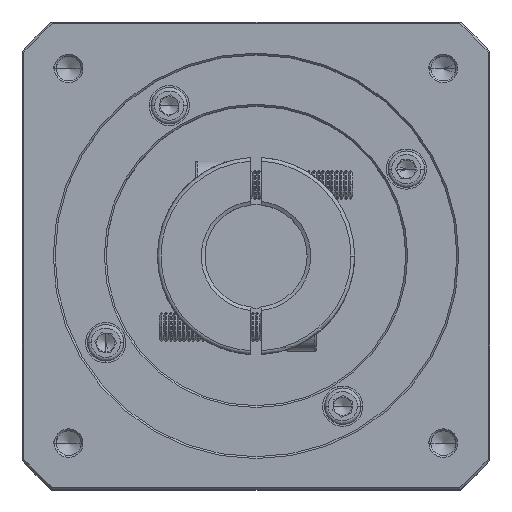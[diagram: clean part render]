
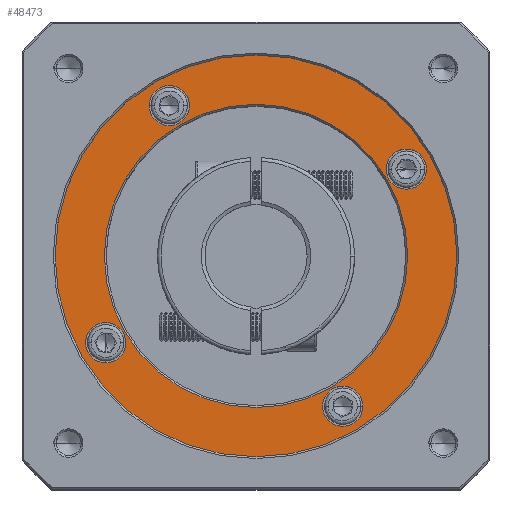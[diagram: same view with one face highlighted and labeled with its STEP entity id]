
A CAD part, top view. The second image highlights one B-rep face of the part: STEP entity #48473.
In plain terms, the highlighted planar face has unit normal (0, 0, 1).
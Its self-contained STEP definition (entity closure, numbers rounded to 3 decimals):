
#279 = VERTEX_POINT ( 'NONE', #19286 ) ;
#600 = DIRECTION ( 'NONE',  ( 1., 0., 0. ) ) ;
#2205 = AXIS2_PLACEMENT_3D ( 'NONE', #31571, #97135, #41064 ) ;
#2297 = CARTESIAN_POINT ( 'NONE',  ( 97.118, 159.927, 47.529 ) ) ;
#2362 = CARTESIAN_POINT ( 'NONE',  ( 110.981, 136.177, 47.529 ) ) ;
#3287 = AXIS2_PLACEMENT_3D ( 'NONE', #42841, #108385, #52226 ) ;
#3496 = CIRCLE ( 'NONE', #69647, 5.5 ) ;
#3546 = EDGE_CURVE ( 'NONE', #33462, #45463, #104579, .T. ) ;
#4136 = DIRECTION ( 'NONE',  ( 1., 0., 0. ) ) ;
#4673 = EDGE_CURVE ( 'NONE', #97977, #72747, #35115, .T. ) ;
#5120 = EDGE_CURVE ( 'NONE', #39438, #117159, #49573, .T. ) ;
#5339 = EDGE_CURVE ( 'NONE', #117159, #39438, #68526, .T. ) ;
#5828 = EDGE_LOOP ( 'NONE', ( #85877, #84084 ) ) ;
#6084 = DIRECTION ( 'NONE',  ( 0., 0., -1. ) ) ;
#8424 = CARTESIAN_POINT ( 'NONE',  ( 74.231, 95.041, 47.529 ) ) ;
#8545 = DIRECTION ( 'NONE',  ( 0., 0., -1. ) ) ;
#10718 = CIRCLE ( 'NONE', #20926, 5.5 ) ;
#11709 = DIRECTION ( 'NONE',  ( 1., 0., 0. ) ) ;
#11887 = DIRECTION ( 'NONE',  ( 0., 0., 1. ) ) ;
#13020 = AXIS2_PLACEMENT_3D ( 'NONE', #94136, #38062, #103551 ) ;
#14042 = CARTESIAN_POINT ( 'NONE',  ( 97.481, 136.177, 47.529 ) ) ;
#18228 = FACE_BOUND ( 'NONE', #104554, .T. ) ;
#19115 = ORIENTED_EDGE ( 'NONE', *, *, #92613, .T. ) ;
#19286 = CARTESIAN_POINT ( 'NONE',  ( 0.981, 136.177, 47.529 ) ) ;
#20926 = AXIS2_PLACEMENT_3D ( 'NONE', #112971, #56839, #600 ) ;
#20986 = PLANE ( 'NONE',  #41298 ) ;
#21353 = CARTESIAN_POINT ( 'NONE',  ( 102.618, 159.927, 47.529 ) ) ;
#21807 = VERTEX_POINT ( 'NONE', #99287 ) ;
#22528 = CARTESIAN_POINT ( 'NONE',  ( 32.231, 177.313, 47.529 ) ) ;
#29146 = DIRECTION ( 'NONE',  ( 0., 0., -1. ) ) ;
#31571 = CARTESIAN_POINT ( 'NONE',  ( 14.845, 112.427, 47.529 ) ) ;
#31958 = DIRECTION ( 'NONE',  ( 1., 0., 0. ) ) ;
#32155 = VERTEX_POINT ( 'NONE', #33177 ) ;
#33177 = CARTESIAN_POINT ( 'NONE',  ( 14.481, 136.177, 47.529 ) ) ;
#33462 = VERTEX_POINT ( 'NONE', #102956 ) ;
#35115 = CIRCLE ( 'NONE', #49623, 5.5 ) ;
#35983 = EDGE_LOOP ( 'NONE', ( #70958, #67722 ) ) ;
#37298 = ORIENTED_EDGE ( 'NONE', *, *, #5120, .T. ) ;
#38062 = DIRECTION ( 'NONE',  ( 0., 0., -1. ) ) ;
#38109 = CARTESIAN_POINT ( 'NONE',  ( 79.731, 95.041, 47.529 ) ) ;
#38989 = EDGE_CURVE ( 'NONE', #109729, #279, #92565, .T. ) ;
#39438 = VERTEX_POINT ( 'NONE', #8424 ) ;
#40306 = AXIS2_PLACEMENT_3D ( 'NONE', #38109, #103597, #47530 ) ;
#41064 = DIRECTION ( 'NONE',  ( 1., 0., 0. ) ) ;
#41298 = AXIS2_PLACEMENT_3D ( 'NONE', #68160, #11887, #77542 ) ;
#42841 = CARTESIAN_POINT ( 'NONE',  ( 55.981, 136.177, 47.529 ) ) ;
#43194 = FACE_BOUND ( 'NONE', #35983, .T. ) ;
#45463 = VERTEX_POINT ( 'NONE', #59956 ) ;
#47530 = DIRECTION ( 'NONE',  ( 1., 0., 0. ) ) ;
#47715 = CIRCLE ( 'NONE', #13020, 5.5 ) ;
#48036 = CARTESIAN_POINT ( 'NONE',  ( 85.231, 95.041, 47.529 ) ) ;
#48473 = ADVANCED_FACE ( 'NONE', ( #114992, #18228, #43194, #68100, #90070, #65208 ), #20986, .T. ) ;
#49573 = CIRCLE ( 'NONE', #88924, 5.5 ) ;
#49623 = AXIS2_PLACEMENT_3D ( 'NONE', #85325, #29146, #94723 ) ;
#52226 = DIRECTION ( 'NONE',  ( 1., 0., 0. ) ) ;
#53448 = DIRECTION ( 'NONE',  ( 0., 0., 1. ) ) ;
#54890 = EDGE_CURVE ( 'NONE', #32155, #92591, #66784, .T. ) ;
#55176 = EDGE_CURVE ( 'NONE', #72747, #97977, #3496, .T. ) ;
#56839 = DIRECTION ( 'NONE',  ( 0., 0., -1. ) ) ;
#59042 = CIRCLE ( 'NONE', #2205, 5.5 ) ;
#59956 = CARTESIAN_POINT ( 'NONE',  ( 26.731, 177.313, 47.529 ) ) ;
#60172 = ORIENTED_EDGE ( 'NONE', *, *, #5339, .T. ) ;
#60429 = DIRECTION ( 'NONE',  ( 0., 0., 1. ) ) ;
#62084 = EDGE_LOOP ( 'NONE', ( #70449, #107403 ) ) ;
#62348 = CARTESIAN_POINT ( 'NONE',  ( 79.731, 95.041, 47.529 ) ) ;
#62728 = CARTESIAN_POINT ( 'NONE',  ( 20.345, 112.427, 47.529 ) ) ;
#64271 = EDGE_LOOP ( 'NONE', ( #60172, #37298 ) ) ;
#64808 = CARTESIAN_POINT ( 'NONE',  ( 55.981, 136.177, 47.529 ) ) ;
#65208 = FACE_BOUND ( 'NONE', #62084, .T. ) ;
#65415 = EDGE_CURVE ( 'NONE', #21807, #81349, #10718, .T. ) ;
#65796 = ORIENTED_EDGE ( 'NONE', *, *, #54890, .T. ) ;
#66600 = AXIS2_PLACEMENT_3D ( 'NONE', #109599, #53448, #118904 ) ;
#66784 = CIRCLE ( 'NONE', #78238, 41.5 ) ;
#66966 = ORIENTED_EDGE ( 'NONE', *, *, #111549, .T. ) ;
#67722 = ORIENTED_EDGE ( 'NONE', *, *, #55176, .T. ) ;
#67983 = DIRECTION ( 'NONE',  ( 0., 0., -1. ) ) ;
#68100 = FACE_BOUND ( 'NONE', #5828, .T. ) ;
#68160 = CARTESIAN_POINT ( 'NONE',  ( 55.981, 136.177, 47.529 ) ) ;
#68526 = CIRCLE ( 'NONE', #40306, 5.5 ) ;
#69647 = AXIS2_PLACEMENT_3D ( 'NONE', #2297, #67983, #11709 ) ;
#70449 = ORIENTED_EDGE ( 'NONE', *, *, #84558, .T. ) ;
#70958 = ORIENTED_EDGE ( 'NONE', *, *, #4673, .T. ) ;
#71710 = DIRECTION ( 'NONE',  ( 1., 0., 0. ) ) ;
#72747 = VERTEX_POINT ( 'NONE', #79700 ) ;
#74154 = DIRECTION ( 'NONE',  ( 1., 0., 0. ) ) ;
#76839 = AXIS2_PLACEMENT_3D ( 'NONE', #22528, #88132, #31958 ) ;
#77542 = DIRECTION ( 'NONE',  ( 1., 0., 0. ) ) ;
#78238 = AXIS2_PLACEMENT_3D ( 'NONE', #64808, #8545, #74154 ) ;
#79700 = CARTESIAN_POINT ( 'NONE',  ( 91.618, 159.927, 47.529 ) ) ;
#81349 = VERTEX_POINT ( 'NONE', #62728 ) ;
#84084 = ORIENTED_EDGE ( 'NONE', *, *, #121478, .T. ) ;
#84558 = EDGE_CURVE ( 'NONE', #81349, #21807, #59042, .T. ) ;
#85325 = CARTESIAN_POINT ( 'NONE',  ( 97.118, 159.927, 47.529 ) ) ;
#85877 = ORIENTED_EDGE ( 'NONE', *, *, #3546, .T. ) ;
#88132 = DIRECTION ( 'NONE',  ( 0., 0., -1. ) ) ;
#88924 = AXIS2_PLACEMENT_3D ( 'NONE', #62348, #6084, #71710 ) ;
#90070 = FACE_BOUND ( 'NONE', #64271, .T. ) ;
#90164 = CIRCLE ( 'NONE', #93911, 55. ) ;
#92565 = CIRCLE ( 'NONE', #66600, 55. ) ;
#92591 = VERTEX_POINT ( 'NONE', #14042 ) ;
#92613 = EDGE_CURVE ( 'NONE', #92591, #32155, #107161, .T. ) ;
#93911 = AXIS2_PLACEMENT_3D ( 'NONE', #116505, #60429, #4136 ) ;
#94136 = CARTESIAN_POINT ( 'NONE',  ( 32.231, 177.313, 47.529 ) ) ;
#94723 = DIRECTION ( 'NONE',  ( 1., 0., 0. ) ) ;
#97135 = DIRECTION ( 'NONE',  ( 0., 0., -1. ) ) ;
#97977 = VERTEX_POINT ( 'NONE', #21353 ) ;
#99287 = CARTESIAN_POINT ( 'NONE',  ( 9.345, 112.427, 47.529 ) ) ;
#102956 = CARTESIAN_POINT ( 'NONE',  ( 37.731, 177.313, 47.529 ) ) ;
#103551 = DIRECTION ( 'NONE',  ( 1., 0., 0. ) ) ;
#103597 = DIRECTION ( 'NONE',  ( 0., 0., -1. ) ) ;
#104554 = EDGE_LOOP ( 'NONE', ( #19115, #65796 ) ) ;
#104579 = CIRCLE ( 'NONE', #76839, 5.5 ) ;
#107161 = CIRCLE ( 'NONE', #3287, 41.5 ) ;
#107403 = ORIENTED_EDGE ( 'NONE', *, *, #65415, .T. ) ;
#108385 = DIRECTION ( 'NONE',  ( 0., 0., -1. ) ) ;
#109599 = CARTESIAN_POINT ( 'NONE',  ( 55.981, 136.177, 47.529 ) ) ;
#109729 = VERTEX_POINT ( 'NONE', #2362 ) ;
#111549 = EDGE_CURVE ( 'NONE', #279, #109729, #90164, .T. ) ;
#112971 = CARTESIAN_POINT ( 'NONE',  ( 14.845, 112.427, 47.529 ) ) ;
#114992 = FACE_OUTER_BOUND ( 'NONE', #115628, .T. ) ;
#115628 = EDGE_LOOP ( 'NONE', ( #118874, #66966 ) ) ;
#116505 = CARTESIAN_POINT ( 'NONE',  ( 55.981, 136.177, 47.529 ) ) ;
#117159 = VERTEX_POINT ( 'NONE', #48036 ) ;
#118874 = ORIENTED_EDGE ( 'NONE', *, *, #38989, .T. ) ;
#118904 = DIRECTION ( 'NONE',  ( 1., 0., 0. ) ) ;
#121478 = EDGE_CURVE ( 'NONE', #45463, #33462, #47715, .T. ) ;
